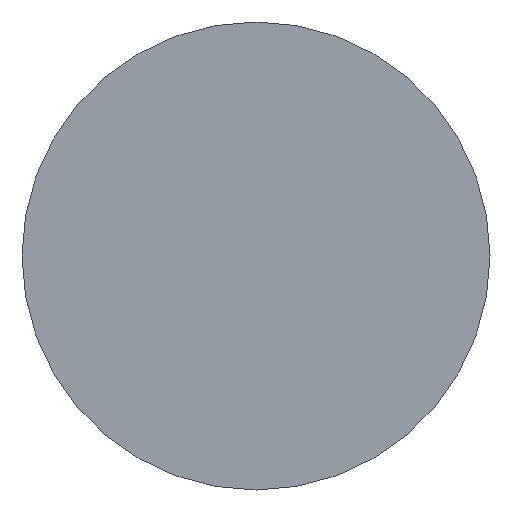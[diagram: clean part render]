
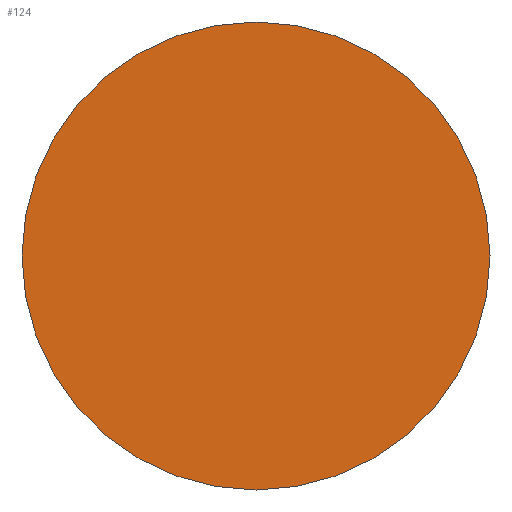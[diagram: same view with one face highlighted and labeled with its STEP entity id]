
A CAD part, left-side view. The second image highlights one B-rep face of the part: STEP entity #124.
In plain terms, the highlighted planar face has unit normal (-1, 0, 0).
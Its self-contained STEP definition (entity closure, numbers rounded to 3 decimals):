
#17 = AXIS2_PLACEMENT_3D ( 'NONE', #232, #122, #218 ) ;
#58 = AXIS2_PLACEMENT_3D ( 'NONE', #235, #230, #226 ) ;
#92 = CARTESIAN_POINT ( 'NONE',  ( 0., -5., 0. ) ) ;
#101 = CARTESIAN_POINT ( 'NONE',  ( 0., 0., 0. ) ) ;
#103 = CIRCLE ( 'NONE', #199, 5. ) ;
#116 = DIRECTION ( 'NONE',  ( 1., 0., 0. ) ) ;
#119 = CIRCLE ( 'NONE', #58, 5. ) ;
#122 = DIRECTION ( 'NONE',  ( -1., 0., 0. ) ) ;
#124 = ADVANCED_FACE ( 'NONE', ( #180 ), #174, .T. ) ;
#140 = CARTESIAN_POINT ( 'NONE',  ( 0., 5., 0. ) ) ;
#159 = EDGE_LOOP ( 'NONE', ( #168, #250 ) ) ;
#168 = ORIENTED_EDGE ( 'NONE', *, *, #176, .F. ) ;
#171 = DIRECTION ( 'NONE',  ( 0., 1., 0. ) ) ;
#174 = PLANE ( 'NONE',  #17 ) ;
#176 = EDGE_CURVE ( 'NONE', #261, #272, #103, .T. ) ;
#180 = FACE_OUTER_BOUND ( 'NONE', #159, .T. ) ;
#199 = AXIS2_PLACEMENT_3D ( 'NONE', #101, #116, #171 ) ;
#218 = DIRECTION ( 'NONE',  ( 0., -1., 0. ) ) ;
#226 = DIRECTION ( 'NONE',  ( 0., 1., 0. ) ) ;
#230 = DIRECTION ( 'NONE',  ( 1., 0., 0. ) ) ;
#232 = CARTESIAN_POINT ( 'NONE',  ( 0., 0., 0. ) ) ;
#235 = CARTESIAN_POINT ( 'NONE',  ( 0., 0., 0. ) ) ;
#240 = EDGE_CURVE ( 'NONE', #272, #261, #119, .T. ) ;
#250 = ORIENTED_EDGE ( 'NONE', *, *, #240, .F. ) ;
#261 = VERTEX_POINT ( 'NONE', #140 ) ;
#272 = VERTEX_POINT ( 'NONE', #92 ) ;
